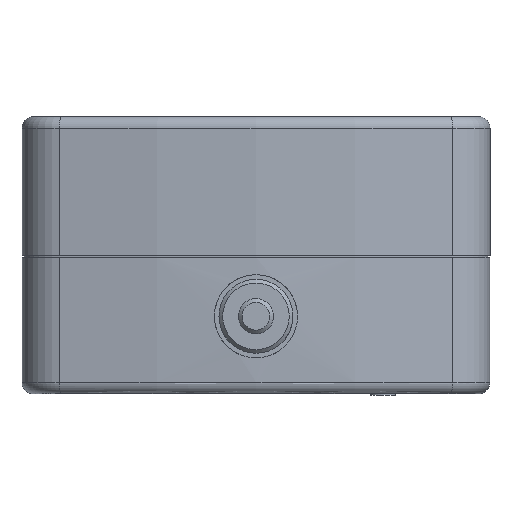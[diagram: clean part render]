
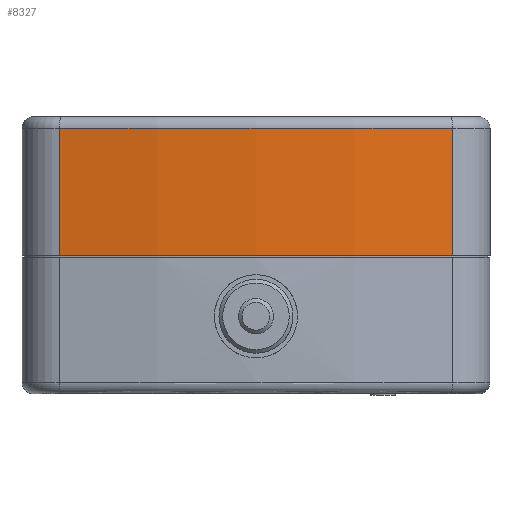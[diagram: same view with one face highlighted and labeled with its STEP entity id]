
A CAD part, front view. The second image highlights one B-rep face of the part: STEP entity #8327.
In plain terms, the highlighted cylindrical face has radius 139.7 mm (diameter 279.4 mm), a partial arc.
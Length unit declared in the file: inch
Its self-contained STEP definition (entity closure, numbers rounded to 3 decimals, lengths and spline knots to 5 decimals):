
#415=FACE_OUTER_BOUND('',#917,.T.);
#917=EDGE_LOOP('',(#5654,#5655,#5656,#5657));
#1497=LINE('',#12492,#2319);
#1498=LINE('',#12495,#2320);
#2319=VECTOR('',#9786,1.);
#2320=VECTOR('',#9789,1.);
#3142=CIRCLE('',#8837,5.5);
#3145=CIRCLE('',#8841,5.5);
#3570=VERTEX_POINT('',#12482);
#3572=VERTEX_POINT('',#12485);
#3574=VERTEX_POINT('',#12491);
#3575=VERTEX_POINT('',#12493);
#4395=EDGE_CURVE('',#3570,#3572,#3142,.T.);
#4398=EDGE_CURVE('',#3574,#3570,#1497,.T.);
#4399=EDGE_CURVE('',#3575,#3574,#3145,.T.);
#4400=EDGE_CURVE('',#3575,#3572,#1498,.T.);
#5654=ORIENTED_EDGE('',*,*,#4395,.F.);
#5655=ORIENTED_EDGE('',*,*,#4398,.F.);
#5656=ORIENTED_EDGE('',*,*,#4399,.F.);
#5657=ORIENTED_EDGE('',*,*,#4400,.T.);
#8151=CYLINDRICAL_SURFACE('',#8840,5.5);
#8327=ADVANCED_FACE('',(#415),#8151,.T.);
#8837=AXIS2_PLACEMENT_3D('',#12486,#9778,#9779);
#8840=AXIS2_PLACEMENT_3D('',#12490,#9784,#9785);
#8841=AXIS2_PLACEMENT_3D('',#12494,#9787,#9788);
#9778=DIRECTION('center_axis',(0.,0.,
1.));
#9779=DIRECTION('ref_axis',(0.,-1.,0.));
#9784=DIRECTION('center_axis',(0.,0.,
1.));
#9785=DIRECTION('ref_axis',(-1.,0.,0.));
#9786=DIRECTION('',(0.,0.,1.));
#9787=DIRECTION('center_axis',(0.,0.,
-1.));
#9788=DIRECTION('ref_axis',(-1.,0.,0.));
#9789=DIRECTION('',(0.,0.,1.));
#12482=CARTESIAN_POINT('',(-59.51065,21.15336,70.42144));
#12485=CARTESIAN_POINT('',(-57.38398,21.15336,70.42144));
#12486=CARTESIAN_POINT('Origin',(-58.44731,26.54959,70.42144));
#12490=CARTESIAN_POINT('Origin',(-58.44731,26.54959,69.73444));
#12491=CARTESIAN_POINT('',(-59.51065,21.15336,69.73444));
#12492=CARTESIAN_POINT('',(-59.51065,21.15336,69.73444));
#12493=CARTESIAN_POINT('',(-57.38398,21.15336,69.73444));
#12494=CARTESIAN_POINT('Origin',(-58.44731,26.54959,69.73444));
#12495=CARTESIAN_POINT('',(-57.38398,21.15336,69.73444));
